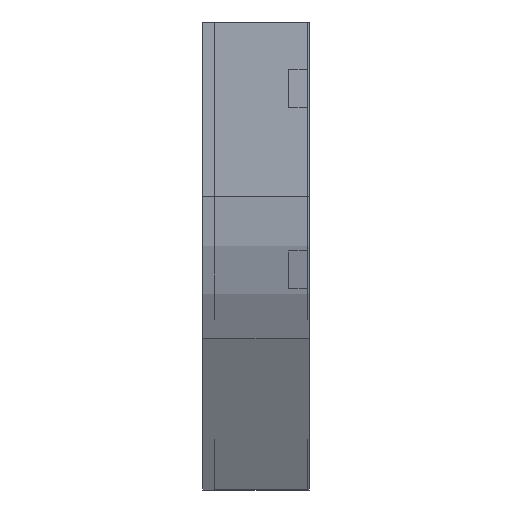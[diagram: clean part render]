
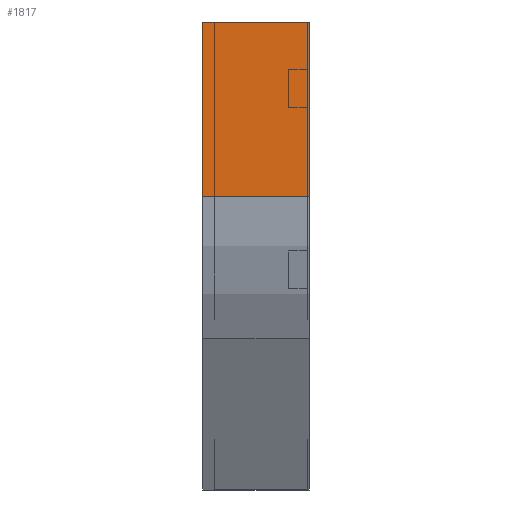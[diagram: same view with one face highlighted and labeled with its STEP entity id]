
A CAD part, left-side view. The second image highlights one B-rep face of the part: STEP entity #1817.
In plain terms, the highlighted planar face has unit normal (-1, 0, 0).
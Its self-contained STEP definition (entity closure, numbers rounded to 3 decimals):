
#146 = DIRECTION ( 'NONE',  ( 0., 0., -1. ) ) ;
#310 = DIRECTION ( 'NONE',  ( 0., 0., -1. ) ) ;
#424 = LINE ( 'NONE', #573, #503 ) ;
#434 = VECTOR ( 'NONE', #741, 1000. ) ;
#449 = DIRECTION ( 'NONE',  ( 1., 0., 0. ) ) ;
#452 = DIRECTION ( 'NONE',  ( 0., 0., -1. ) ) ;
#503 = VECTOR ( 'NONE', #146, 1000. ) ;
#573 = CARTESIAN_POINT ( 'NONE',  ( 0., 0., 0. ) ) ;
#614 = ORIENTED_EDGE ( 'NONE', *, *, #1489, .F. ) ;
#722 = VERTEX_POINT ( 'NONE', #1186 ) ;
#741 = DIRECTION ( 'NONE',  ( 0., -1., 0. ) ) ;
#889 = CARTESIAN_POINT ( 'NONE',  ( 0., 112.5, -183.975 ) ) ;
#954 = ORIENTED_EDGE ( 'NONE', *, *, #1208, .T. ) ;
#1025 = LINE ( 'NONE', #1050, #1819 ) ;
#1040 = VECTOR ( 'NONE', #1183, 1000. ) ;
#1050 = CARTESIAN_POINT ( 'NONE',  ( 0., 112.5, 0. ) ) ;
#1072 = EDGE_CURVE ( 'NONE', #1811, #1632, #424, .T. ) ;
#1132 = VERTEX_POINT ( 'NONE', #889 ) ;
#1140 = PLANE ( 'NONE',  #1179 ) ;
#1179 = AXIS2_PLACEMENT_3D ( 'NONE', #1326, #449, #310 ) ;
#1183 = DIRECTION ( 'NONE',  ( 0., -1., 0. ) ) ;
#1186 = CARTESIAN_POINT ( 'NONE',  ( 0., 112.5, 0. ) ) ;
#1192 = CARTESIAN_POINT ( 'NONE',  ( 0., 0., -183.975 ) ) ;
#1208 = EDGE_CURVE ( 'NONE', #1132, #1632, #1365, .T. ) ;
#1293 = FACE_OUTER_BOUND ( 'NONE', #1564, .T. ) ;
#1326 = CARTESIAN_POINT ( 'NONE',  ( 0., 0., 0. ) ) ;
#1365 = LINE ( 'NONE', #1192, #1040 ) ;
#1429 = CARTESIAN_POINT ( 'NONE',  ( 0., 0., 0. ) ) ;
#1441 = ORIENTED_EDGE ( 'NONE', *, *, #1453, .T. ) ;
#1453 = EDGE_CURVE ( 'NONE', #722, #1132, #1025, .T. ) ;
#1484 = CARTESIAN_POINT ( 'NONE',  ( 0., 0., 0. ) ) ;
#1489 = EDGE_CURVE ( 'NONE', #722, #1811, #1492, .T. ) ;
#1492 = LINE ( 'NONE', #1484, #434 ) ;
#1564 = EDGE_LOOP ( 'NONE', ( #1573, #614, #1441, #954 ) ) ;
#1573 = ORIENTED_EDGE ( 'NONE', *, *, #1072, .F. ) ;
#1632 = VERTEX_POINT ( 'NONE', #1680 ) ;
#1680 = CARTESIAN_POINT ( 'NONE',  ( 0., 0., -183.975 ) ) ;
#1811 = VERTEX_POINT ( 'NONE', #1429 ) ;
#1817 = ADVANCED_FACE ( 'NONE', ( #1293 ), #1140, .F. ) ;
#1819 = VECTOR ( 'NONE', #452, 1000. ) ;
